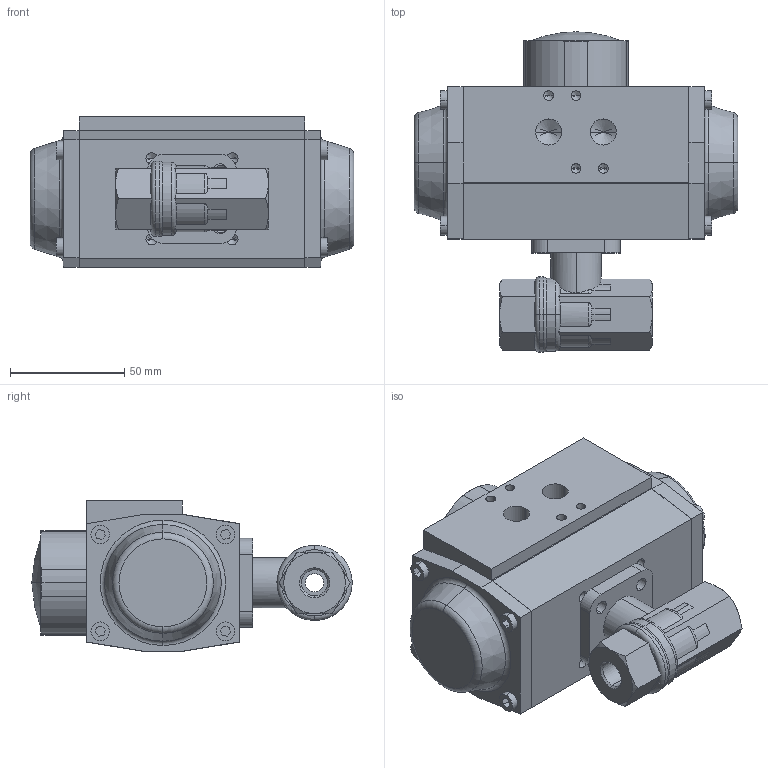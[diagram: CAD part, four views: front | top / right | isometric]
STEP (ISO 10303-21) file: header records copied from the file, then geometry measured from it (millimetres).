
FILE_DESCRIPTION (( 'STEP AP214' ), '1' );
FILE_NAME ('A25-DN08-G1_4+AP1.step', '2011-03-03T09:45:10', ( '' ), ( '' ), 'SwSTEP 2.0', 'SolidWorks 2011', '' );
FILE_SCHEMA (( 'AUTOMOTIVE_DESIGN' ));
Length unit declared in the file: millimetre
Products named in the file (3): Ballvalve A25-DN08 G1_4; AP1_Default<As Machined>; A25-DN08-G1_4+AP1
Assembly tree (2 placements, depth 2):
  A25-DN08-G1_4+AP1
    AP1_Default<As Machined>
    Ballvalve A25-DN08 G1_4
Bounding box: 142 x 140.49 x 66 mm (x, y, z)
Volume: 622674.6 mm3; surface area: 74287.4 mm2
Topology: 5 solids, 5 shells, 335 faces, 825 edges, 509 vertices
Faces by surface type: plane 154, cylinder 101, cone 56, torus 22, sphere 2
Entity records: 11035 total; most frequent: CARTESIAN_POINT 2157, DIRECTION 1662, ORIENTED_EDGE 1578, EDGE_CURVE 789, AXIS2_PLACEMENT_3D 602, VERTEX_POINT 509, LINE 458, VECTOR 458
